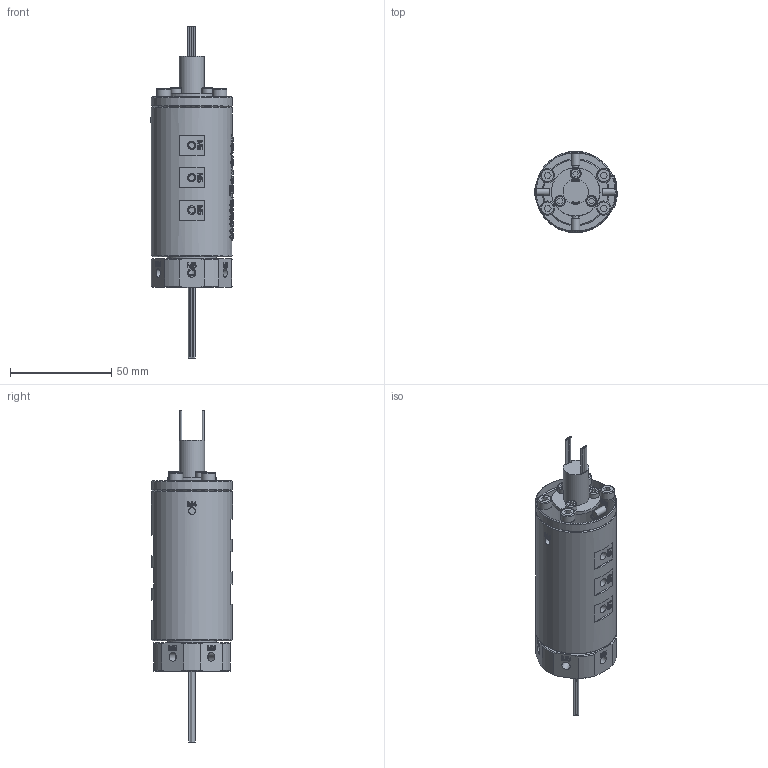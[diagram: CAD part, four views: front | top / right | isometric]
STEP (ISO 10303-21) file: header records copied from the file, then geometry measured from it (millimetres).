
FILE_DESCRIPTION(/* description */ (''),/* implementation_level */ '2;1');
FILE_NAME(/* name */ 'YQ06005-08M.stp',/* time_stamp */ '2025-09-01T16:00:41+08:00',/* author */ (''),/* organization */ (''),/* preprocessor_version */ 'ST-DEVELOPER v16.7',/* originating_system */ 'SIEMENS PLM Software NX 12.0',/* authorisation */ '');
FILE_SCHEMA (('AUTOMOTIVE_DESIGN { 1 0 10303 214 3 1 1 1 }'));
Products named in the file (1): AdmiB44865CDwd8s
Bounding box: 40.7 x 40 x 163.9 mm (x, y, z)
Volume: 117403.6 mm3; surface area: 22695.7 mm2
Topology: 1 solids, 9 shells, 1561 faces, 4214 edges, 2806 vertices
Faces by surface type: plane 685, extrusion 660, cylinder 119, bspline 61, cone 29, torus 7
Full cylindrical faces by diameter (mm): 0.8 x16, 3 x15, 3.4 x9, 4 x10, 4.1 x6, 4.2 x18, 5 x1, 5.5 x3, 6 x1, 7 x4, 12.4 x1, 23.9 x1, 24 x1, 32 x1, 40 x2
Entity records: 58328 total; most frequent: CARTESIAN_POINT 25067, ORIENTED_EDGE 8060, DIRECTION 4056, EDGE_CURVE 4030, B_SPLINE_CURVE_WITH_KNOTS 3373, VERTEX_POINT 2743, EDGE_LOOP 1841, VECTOR 1580
